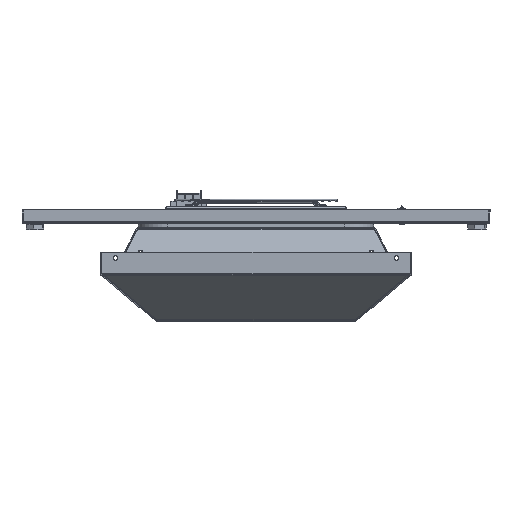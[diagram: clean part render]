
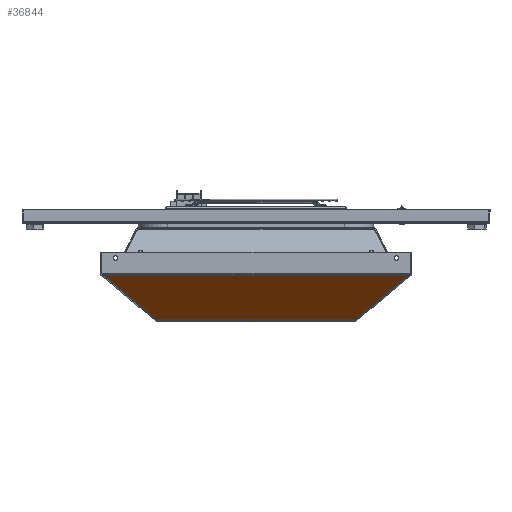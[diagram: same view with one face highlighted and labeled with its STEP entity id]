
A CAD part, left-side view. The second image highlights one B-rep face of the part: STEP entity #36844.
In plain terms, the highlighted planar face has unit normal (-0.643, 0, -0.766) as drawn and (0, -0.643, -0.766) by its records, which use the part's own axes.
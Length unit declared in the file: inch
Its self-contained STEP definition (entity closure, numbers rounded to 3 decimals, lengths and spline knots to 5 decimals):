
#6972 = LINE ( 'NONE', #30510, #7066 ) ;
#6992 = VECTOR ( 'NONE', #30490, 39.37008 ) ;
#7010 = LINE ( 'NONE', #30496, #7035 ) ;
#7035 = VECTOR ( 'NONE', #30493, 39.37008 ) ;
#7063 = LINE ( 'NONE', #30558, #7074 ) ;
#7066 = VECTOR ( 'NONE', #30500, 39.37008 ) ;
#7069 = LINE ( 'NONE', #30502, #6992 ) ;
#7074 = VECTOR ( 'NONE', #30556, 39.37008 ) ;
#9574 = FACE_OUTER_BOUND ( 'NONE', #43975, .T. ) ;
#25665 = AXIS2_PLACEMENT_3D ( 'NONE', #32476, #32444, #32443 ) ;
#30490 = DIRECTION ( 'NONE',  ( 0.608, -0.608, 0.51 ) ) ;
#30493 = DIRECTION ( 'NONE',  ( -1., 0., 0. ) ) ;
#30496 = CARTESIAN_POINT ( 'NONE',  ( 7.6801, -7.69793, 2.28505 ) ) ;
#30500 = DIRECTION ( 'NONE',  ( -0.608, -0.608, 0.51 ) ) ;
#30502 = CARTESIAN_POINT ( 'NONE',  ( -1.49009, 1.41128, -5.35848 ) ) ;
#30510 = CARTESIAN_POINT ( 'NONE',  ( 3.08478, 3.00597, -6.69658 ) ) ;
#30556 = DIRECTION ( 'NONE',  ( -1., 0., 0. ) ) ;
#30558 = CARTESIAN_POINT ( 'NONE',  ( 4.9485, -5.01709, 0.03556 ) ) ;
#32443 = DIRECTION ( 'NONE',  ( 0., -0.766, 0.643 ) ) ;
#32444 = DIRECTION ( 'NONE',  ( 0., 0.643, 0.766 ) ) ;
#32476 = CARTESIAN_POINT ( 'NONE',  ( 4.9485, -4.99478, 0.01684 ) ) ;
#32504 = PLANE ( 'NONE',  #25665 ) ;
#34808 = CARTESIAN_POINT ( 'NONE',  ( -7.61912, -7.69793, 2.28505 ) ) ;
#34823 = CARTESIAN_POINT ( 'NONE',  ( 7.61912, -7.69793, 2.28505 ) ) ;
#34900 = CARTESIAN_POINT ( 'NONE',  ( 4.93828, -5.01709, 0.03556 ) ) ;
#34930 = CARTESIAN_POINT ( 'NONE',  ( -4.93828, -5.01709, 0.03556 ) ) ;
#36844 = ADVANCED_FACE ( 'NONE', ( #9574 ), #32504, .F. ) ;
#41814 = VERTEX_POINT ( 'NONE', #34930 ) ;
#41987 = VERTEX_POINT ( 'NONE', #34900 ) ;
#43975 = EDGE_LOOP ( 'NONE', ( #50424, #50425, #50426, #50427 ) ) ;
#44101 = VERTEX_POINT ( 'NONE', #34823 ) ;
#44118 = VERTEX_POINT ( 'NONE', #34808 ) ;
#48753 = EDGE_CURVE ( 'NONE', #41987, #41814, #7063, .T. ) ;
#48764 = EDGE_CURVE ( 'NONE', #41814, #44118, #6972, .T. ) ;
#48765 = EDGE_CURVE ( 'NONE', #44101, #44118, #7010, .T. ) ;
#48766 = EDGE_CURVE ( 'NONE', #41987, #44101, #7069, .T. ) ;
#50424 = ORIENTED_EDGE ( 'NONE', *, *, #48765, .T. ) ;
#50425 = ORIENTED_EDGE ( 'NONE', *, *, #48764, .F. ) ;
#50426 = ORIENTED_EDGE ( 'NONE', *, *, #48753, .F. ) ;
#50427 = ORIENTED_EDGE ( 'NONE', *, *, #48766, .T. ) ;
